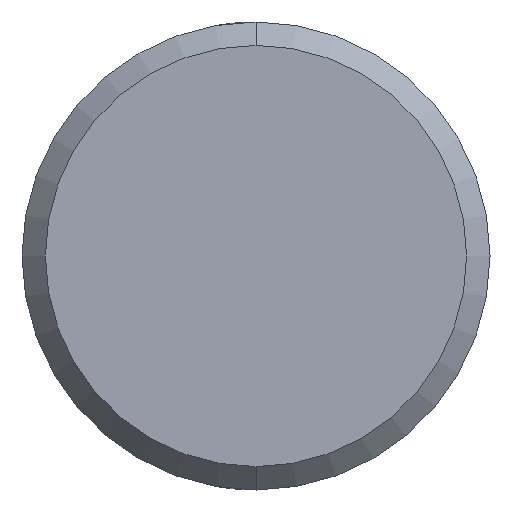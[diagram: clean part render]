
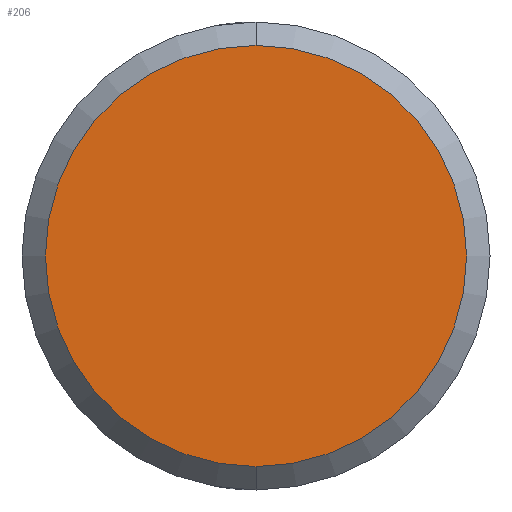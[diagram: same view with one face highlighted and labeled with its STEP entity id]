
A CAD part, front view. The second image highlights one B-rep face of the part: STEP entity #206.
In plain terms, the highlighted planar face has unit normal (0, -1, 0).
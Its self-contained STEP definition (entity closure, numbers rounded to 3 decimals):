
#20 = DIRECTION ( 'NONE',  ( 0., 0., 1. ) ) ;
#25 = DIRECTION ( 'NONE',  ( 0., -1., 0. ) ) ;
#60 = DIRECTION ( 'NONE',  ( 0., 0., 1. ) ) ;
#94 = CARTESIAN_POINT ( 'NONE',  ( 0., 0., 0. ) ) ;
#98 = CARTESIAN_POINT ( 'NONE',  ( 0., 0., -1.8 ) ) ;
#152 = EDGE_CURVE ( 'NONE', #208, #813, #864, .T. ) ;
#206 = ADVANCED_FACE ( 'NONE', ( #442 ), #857, .F. ) ;
#208 = VERTEX_POINT ( 'NONE', #98 ) ;
#352 = DIRECTION ( 'NONE',  ( 0., -1., 0. ) ) ;
#408 = DIRECTION ( 'NONE',  ( 0., 1., 0. ) ) ;
#439 = AXIS2_PLACEMENT_3D ( 'NONE', #94, #25, #20 ) ;
#440 = CIRCLE ( 'NONE', #851, 1.8 ) ;
#442 = FACE_OUTER_BOUND ( 'NONE', #558, .T. ) ;
#558 = EDGE_LOOP ( 'NONE', ( #846, #782 ) ) ;
#561 = DIRECTION ( 'NONE',  ( 0., 0., 1. ) ) ;
#782 = ORIENTED_EDGE ( 'NONE', *, *, #152, .T. ) ;
#795 = CARTESIAN_POINT ( 'NONE',  ( 0., 0., 0. ) ) ;
#813 = VERTEX_POINT ( 'NONE', #956 ) ;
#828 = CARTESIAN_POINT ( 'NONE',  ( 0., 0., 0. ) ) ;
#846 = ORIENTED_EDGE ( 'NONE', *, *, #876, .T. ) ;
#851 = AXIS2_PLACEMENT_3D ( 'NONE', #828, #352, #60 ) ;
#857 = PLANE ( 'NONE',  #991 ) ;
#864 = CIRCLE ( 'NONE', #439, 1.8 ) ;
#876 = EDGE_CURVE ( 'NONE', #813, #208, #440, .T. ) ;
#956 = CARTESIAN_POINT ( 'NONE',  ( 0., 0., 1.8 ) ) ;
#991 = AXIS2_PLACEMENT_3D ( 'NONE', #795, #408, #561 ) ;
